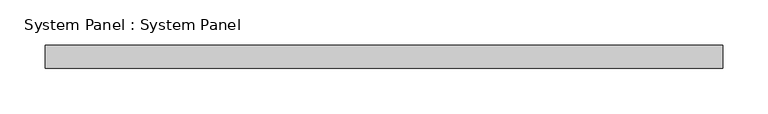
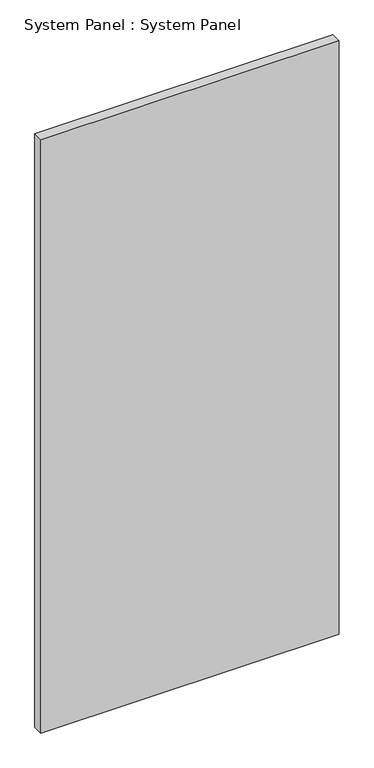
"""IFC4 building model written with IfcOpenShell, lengths in millimetres: plate geometry, System Panel : System Panel."""

from ifc_helpers import new_model, si_unit, origin, origin_with_axes, place, context, project, spatial, polyline, outline, extrude, source, transform, mapped, element, save


def system_panel_system_panel_c4c053e5(model_context):
    return source(origin(), model_context, "Body", "SweptSolid", [
        extrude(outline(polyline([(374.65, 19.05), (-374.65, 19.05), (-374.65, 44.45), (374.65, 44.45), (374.65, 19.05)])), origin_with_axes(), (0.0, 0.0, 1.0), 1574.8),
    ])


if __name__ == "__main__":
    model = new_model("IFC4")
    model_context = context("Model", 3, world=origin())
    ifc_project = project(units=[si_unit("LENGTHUNIT", "METRE", prefix="MILLI")], contexts=[model_context])
    site = spatial("IfcSite", under=ifc_project)
    building = spatial("IfcBuilding", under=site)
    placement = place(None, origin())
    system_panel_system_panel_shape = system_panel_system_panel_c4c053e5(model_context)
    element("IfcPlate", 1, ObjectType="System Panel : System Panel", at=placement, inside=building, context=model_context, shape_type="MappedRepresentation", body=[
        mapped(system_panel_system_panel_shape, transform((0.0, 0.0, 0.0), x_axis=(1.0, 0.0, 0.0), y_axis=(0.0, 1.0, 0.0), z_axis=(0.0, 0.0, 1.0))),
    ])
    save(model, "model.ifc")
